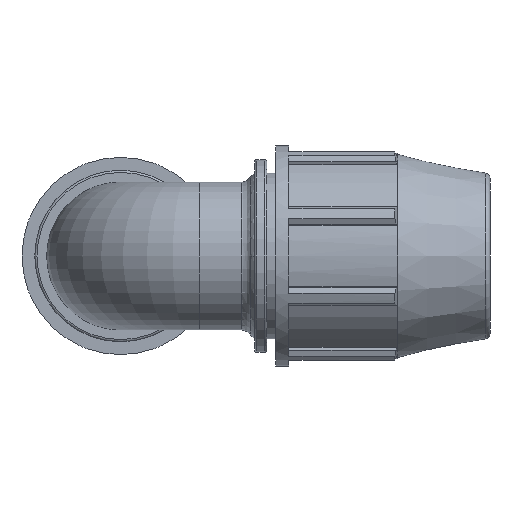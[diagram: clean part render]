
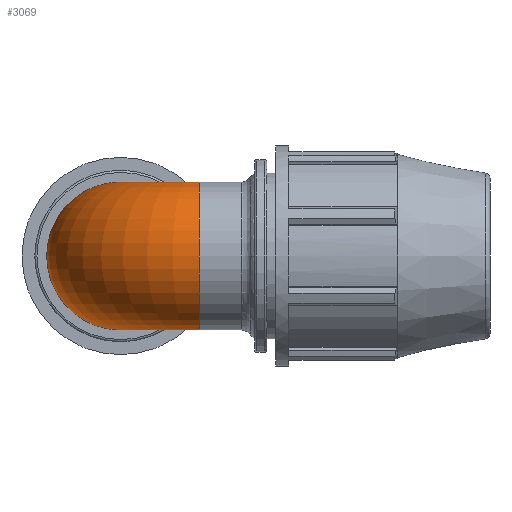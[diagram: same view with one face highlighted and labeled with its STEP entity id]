
A CAD part, front view. The second image highlights one B-rep face of the part: STEP entity #3069.
In plain terms, the highlighted toroidal (fillet/blend) face has major radius 19.202 mm and minor radius 18.002 mm.
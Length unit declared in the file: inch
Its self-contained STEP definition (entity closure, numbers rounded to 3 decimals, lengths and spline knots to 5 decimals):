
#29=TOROIDAL_SURFACE('',#3379,0.756,0.70875);
#809=FACE_OUTER_BOUND('',#969,.T.);
#969=EDGE_LOOP('',(#2593,#2594,#2595,#2596));
#1140=CIRCLE('',#3370,0.70875);
#1146=CIRCLE('',#3380,0.04725);
#1147=CIRCLE('',#3381,0.70875);
#1435=VERTEX_POINT('',#5397);
#1440=VERTEX_POINT('',#5414);
#1843=EDGE_CURVE('',#1435,#1435,#1140,.T.);
#1850=EDGE_CURVE('',#1435,#1440,#1146,.T.);
#1851=EDGE_CURVE('',#1440,#1440,#1147,.T.);
#2593=ORIENTED_EDGE('',*,*,#1843,.F.);
#2594=ORIENTED_EDGE('',*,*,#1850,.T.);
#2595=ORIENTED_EDGE('',*,*,#1851,.T.);
#2596=ORIENTED_EDGE('',*,*,#1850,.F.);
#3069=ADVANCED_FACE('',(#809),#29,.T.);
#3370=AXIS2_PLACEMENT_3D('',#5399,#4142,#4143);
#3379=AXIS2_PLACEMENT_3D('',#5413,#4161,#4162);
#3380=AXIS2_PLACEMENT_3D('',#5415,#4163,#4164);
#3381=AXIS2_PLACEMENT_3D('',#5416,#4165,#4166);
#4142=DIRECTION('center_axis',(1.,0.,0.));
#4143=DIRECTION('ref_axis',(0.,-1.,0.));
#4161=DIRECTION('center_axis',(0.,0.,1.));
#4162=DIRECTION('ref_axis',(1.,0.,0.));
#4163=DIRECTION('center_axis',(0.,0.,-1.));
#4164=DIRECTION('ref_axis',(1.,0.,0.));
#4165=DIRECTION('center_axis',(0.,-1.,0.));
#4166=DIRECTION('ref_axis',(-1.,0.,0.));
#5397=CARTESIAN_POINT('',(0.756,0.70875,0.));
#5399=CARTESIAN_POINT('Origin',(0.756,0.,0.));
#5413=CARTESIAN_POINT('Origin',(0.756,0.756,0.));
#5414=CARTESIAN_POINT('',(0.70875,0.756,0.));
#5415=CARTESIAN_POINT('Origin',(0.756,0.756,0.));
#5416=CARTESIAN_POINT('Origin',(0.,0.756,0.));
